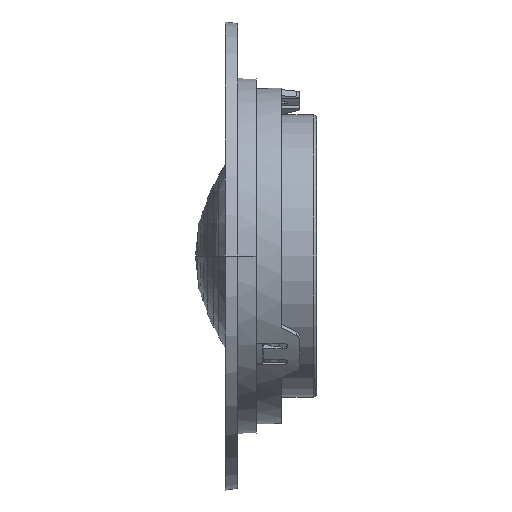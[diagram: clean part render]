
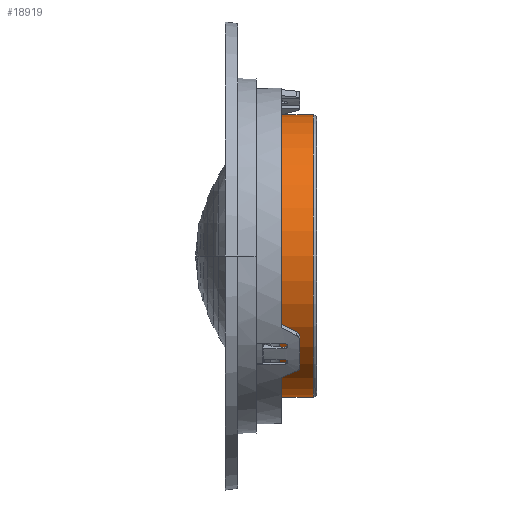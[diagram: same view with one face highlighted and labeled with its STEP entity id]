
A CAD part, left-side view. The second image highlights one B-rep face of the part: STEP entity #18919.
In plain terms, the highlighted cylindrical face has radius 45.85 mm (diameter 91.7 mm), a partial arc.
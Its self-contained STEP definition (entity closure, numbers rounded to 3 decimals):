
#294 = DIRECTION ( 'NONE',  ( 0., 1., 0. ) ) ;
#493 = EDGE_CURVE ( 'NONE', #16305, #18414, #26795, .T. ) ;
#1578 = DIRECTION ( 'NONE',  ( 0., 0., 1. ) ) ;
#2162 = DIRECTION ( 'NONE',  ( 0., 1., 0. ) ) ;
#4001 = CARTESIAN_POINT ( 'NONE',  ( 0., 30.203, 0. ) ) ;
#4854 = CARTESIAN_POINT ( 'NONE',  ( 0., 1., 0. ) ) ;
#5599 = EDGE_CURVE ( 'NONE', #16305, #36091, #12413, .T. ) ;
#5712 = VERTEX_POINT ( 'NONE', #23633 ) ;
#6883 = AXIS2_PLACEMENT_3D ( 'NONE', #4854, #2162, #13594 ) ;
#12413 = CIRCLE ( 'NONE', #6883, 45.85 ) ;
#13090 = AXIS2_PLACEMENT_3D ( 'NONE', #28269, #34269, #1578 ) ;
#13594 = DIRECTION ( 'NONE',  ( 0., 0., 1. ) ) ;
#14325 = AXIS2_PLACEMENT_3D ( 'NONE', #4001, #21075, #30692 ) ;
#14435 = CARTESIAN_POINT ( 'NONE',  ( 0., 30.203, -45.85 ) ) ;
#14704 = FACE_OUTER_BOUND ( 'NONE', #20920, .T. ) ;
#14903 = CYLINDRICAL_SURFACE ( 'NONE', #14325, 45.85 ) ;
#15732 = EDGE_CURVE ( 'NONE', #36091, #5712, #30504, .T. ) ;
#15747 = VECTOR ( 'NONE', #294, 1000. ) ;
#16305 = VERTEX_POINT ( 'NONE', #25895 ) ;
#17586 = CARTESIAN_POINT ( 'NONE',  ( 0., 1., 45.85 ) ) ;
#17786 = VECTOR ( 'NONE', #25264, 1000. ) ;
#18414 = VERTEX_POINT ( 'NONE', #34448 ) ;
#18919 = ADVANCED_FACE ( 'NONE', ( #14704 ), #14903, .T. ) ;
#20920 = EDGE_LOOP ( 'NONE', ( #23422, #30392, #34054, #32038 ) ) ;
#21075 = DIRECTION ( 'NONE',  ( 0., 1., 0. ) ) ;
#23422 = ORIENTED_EDGE ( 'NONE', *, *, #493, .F. ) ;
#23633 = CARTESIAN_POINT ( 'NONE',  ( 0., 12., 45.85 ) ) ;
#25264 = DIRECTION ( 'NONE',  ( 0., 1., 0. ) ) ;
#25895 = CARTESIAN_POINT ( 'NONE',  ( 0., 1., -45.85 ) ) ;
#26795 = LINE ( 'NONE', #14435, #15747 ) ;
#27787 = CARTESIAN_POINT ( 'NONE',  ( 0., 30.203, 45.85 ) ) ;
#28269 = CARTESIAN_POINT ( 'NONE',  ( 0., 12., 0. ) ) ;
#29773 = CIRCLE ( 'NONE', #13090, 45.85 ) ;
#30392 = ORIENTED_EDGE ( 'NONE', *, *, #5599, .T. ) ;
#30504 = LINE ( 'NONE', #27787, #17786 ) ;
#30692 = DIRECTION ( 'NONE',  ( 0., 0., 1. ) ) ;
#32038 = ORIENTED_EDGE ( 'NONE', *, *, #33142, .F. ) ;
#33142 = EDGE_CURVE ( 'NONE', #18414, #5712, #29773, .T. ) ;
#34054 = ORIENTED_EDGE ( 'NONE', *, *, #15732, .T. ) ;
#34269 = DIRECTION ( 'NONE',  ( 0., 1., 0. ) ) ;
#34448 = CARTESIAN_POINT ( 'NONE',  ( 0., 12., -45.85 ) ) ;
#36091 = VERTEX_POINT ( 'NONE', #17586 ) ;
